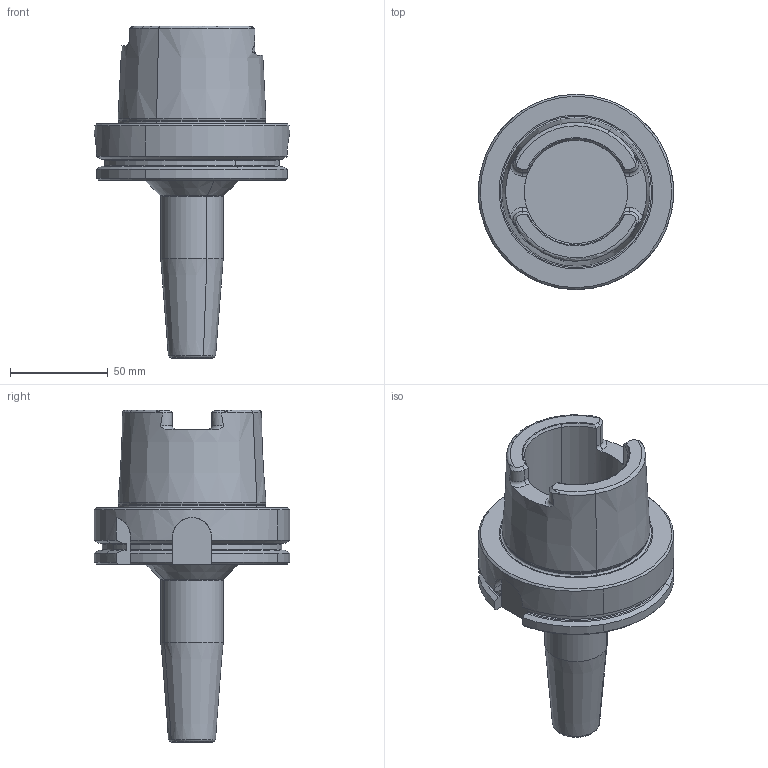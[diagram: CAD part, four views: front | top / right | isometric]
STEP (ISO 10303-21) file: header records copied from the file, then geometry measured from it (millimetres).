
FILE_DESCRIPTION(('CATIA V5 STEP','CAx-IF Rec.Pracs.--- Model Styling and Organization---1.2---2011-12-15'),'2;1');
FILE_NAME('\\nas01\drv1\utils\eitdev\rte\eit\transmagicconvert\db\out\4504212 L.stp','2014-04-03T04:25:07+00:00',('none'),('none'),'CATIA Version 5 Release 21 SP 5 (IN-10)','CATIA V5 STEP AP214','none');
FILE_SCHEMA(('AUTOMOTIVE_DESIGN { 1 0 10303 214 1 1 1 1 }'));
Length unit declared in the file: millimetre
Products named in the file (1): 60967383_0 Holder-Tool HSK A 100 SRKIN 10X120
Bounding box: 100 x 100 x 170 mm (x, y, z)
Volume: 352954.7 mm3; surface area: 54450.9 mm2
Topology: 1 solids, 1 shells, 139 faces, 354 edges, 220 vertices
Faces by surface type: cone 37, plane 37, cylinder 33, torus 32
Entity records: 4199 total; most frequent: CARTESIAN_POINT 1222, ORIENTED_EDGE 708, DIRECTION 445, EDGE_CURVE 354, AXIS2_PLACEMENT_3D 244, VERTEX_POINT 220, CIRCLE 161, EDGE_LOOP 142
